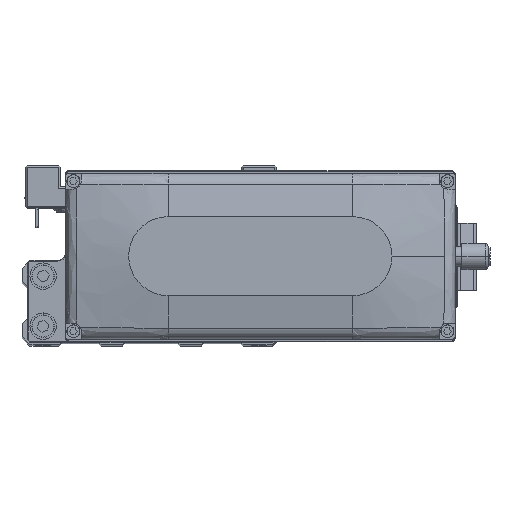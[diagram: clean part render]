
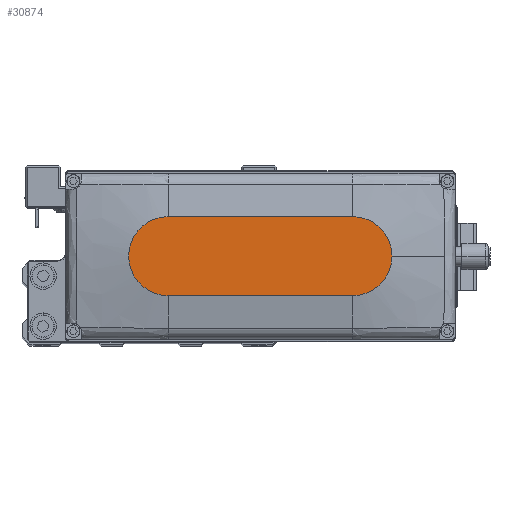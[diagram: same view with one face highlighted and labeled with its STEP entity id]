
A CAD part, top view. The second image highlights one B-rep face of the part: STEP entity #30874.
In plain terms, the highlighted planar face has unit normal (0, 0, 1).
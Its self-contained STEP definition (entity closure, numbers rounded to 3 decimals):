
#103 = CIRCLE ( 'NONE', #22459, 15. ) ;
#192 = DIRECTION ( 'NONE',  ( 1., 0., 0. ) ) ;
#390 = ORIENTED_EDGE ( 'NONE', *, *, #39227, .T. ) ;
#460 = AXIS2_PLACEMENT_3D ( 'NONE', #11790, #24005, #36218 ) ;
#774 = ORIENTED_EDGE ( 'NONE', *, *, #19784, .T. ) ;
#1430 = CARTESIAN_POINT ( 'NONE',  ( 35., 15., 35. ) ) ;
#1862 = CARTESIAN_POINT ( 'NONE',  ( -35., 0., 35. ) ) ;
#4225 = DIRECTION ( 'NONE',  ( 0., 0., 1. ) ) ;
#4985 = ORIENTED_EDGE ( 'NONE', *, *, #5284, .T. ) ;
#5284 = EDGE_CURVE ( 'NONE', #32896, #33932, #36018, .T. ) ;
#5424 = EDGE_CURVE ( 'NONE', #15037, #15374, #15388, .T. ) ;
#5505 = AXIS2_PLACEMENT_3D ( 'NONE', #1862, #14057, #26265 ) ;
#8596 = CARTESIAN_POINT ( 'NONE',  ( -35., 15., 35. ) ) ;
#8628 = CARTESIAN_POINT ( 'NONE',  ( -35., 15., 35. ) ) ;
#10492 = CARTESIAN_POINT ( 'NONE',  ( 0., 0., 35. ) ) ;
#11645 = VECTOR ( 'NONE', #192, 1000. ) ;
#11790 = CARTESIAN_POINT ( 'NONE',  ( 35., 0., 35. ) ) ;
#13319 = CARTESIAN_POINT ( 'NONE',  ( 50., 0., 35. ) ) ;
#13759 = AXIS2_PLACEMENT_3D ( 'NONE', #10492, #22705, #34919 ) ;
#14057 = DIRECTION ( 'NONE',  ( 0., 0., 1. ) ) ;
#15037 = VERTEX_POINT ( 'NONE', #33457 ) ;
#15374 = VERTEX_POINT ( 'NONE', #32427 ) ;
#15388 = LINE ( 'NONE', #27594, #11645 ) ;
#15471 = VECTOR ( 'NONE', #20795, 1000. ) ;
#16417 = DIRECTION ( 'NONE',  ( 1., 0., 0. ) ) ;
#17554 = EDGE_LOOP ( 'NONE', ( #4985, #20732, #30534, #390, #774 ) ) ;
#17622 = CIRCLE ( 'NONE', #5505, 15. ) ;
#17693 = CIRCLE ( 'NONE', #460, 15. ) ;
#19784 = EDGE_CURVE ( 'NONE', #29361, #32896, #103, .T. ) ;
#20732 = ORIENTED_EDGE ( 'NONE', *, *, #35062, .T. ) ;
#20795 = DIRECTION ( 'NONE',  ( -1., 0., 0. ) ) ;
#22459 = AXIS2_PLACEMENT_3D ( 'NONE', #31609, #4225, #16417 ) ;
#22705 = DIRECTION ( 'NONE',  ( 0., 0., 1. ) ) ;
#24005 = DIRECTION ( 'NONE',  ( 0., 0., 1. ) ) ;
#25724 = FACE_OUTER_BOUND ( 'NONE', #17554, .T. ) ;
#26265 = DIRECTION ( 'NONE',  ( 1., 0., 0. ) ) ;
#27594 = CARTESIAN_POINT ( 'NONE',  ( -35., -15., 35. ) ) ;
#29361 = VERTEX_POINT ( 'NONE', #13319 ) ;
#30534 = ORIENTED_EDGE ( 'NONE', *, *, #5424, .T. ) ;
#30874 = ADVANCED_FACE ( 'NONE', ( #25724 ), #37932, .T. ) ;
#31609 = CARTESIAN_POINT ( 'NONE',  ( 35., 0., 35. ) ) ;
#32427 = CARTESIAN_POINT ( 'NONE',  ( 35., -15., 35. ) ) ;
#32896 = VERTEX_POINT ( 'NONE', #1430 ) ;
#33457 = CARTESIAN_POINT ( 'NONE',  ( -35., -15., 35. ) ) ;
#33932 = VERTEX_POINT ( 'NONE', #8628 ) ;
#34919 = DIRECTION ( 'NONE',  ( 1., 0., 0. ) ) ;
#35062 = EDGE_CURVE ( 'NONE', #33932, #15037, #17622, .T. ) ;
#36018 = LINE ( 'NONE', #8596, #15471 ) ;
#36218 = DIRECTION ( 'NONE',  ( 1., 0., 0. ) ) ;
#37932 = PLANE ( 'NONE',  #13759 ) ;
#39227 = EDGE_CURVE ( 'NONE', #15374, #29361, #17693, .T. ) ;
